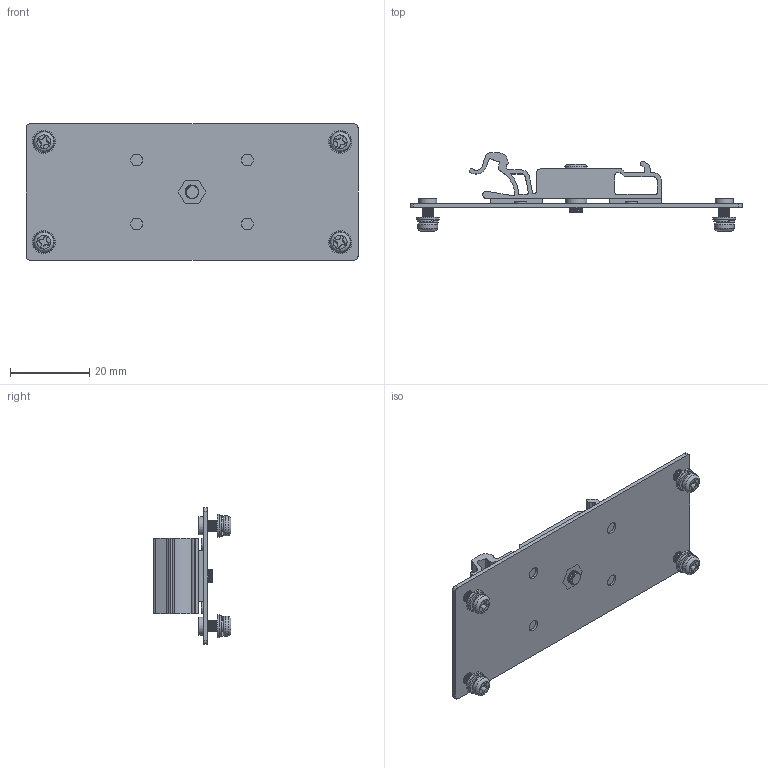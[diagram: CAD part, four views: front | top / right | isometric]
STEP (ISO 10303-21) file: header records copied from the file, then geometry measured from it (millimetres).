
FILE_DESCRIPTION (( 'STEP AP214' ), '1' );
FILE_NAME ('ECL15-S ASM SPEC(DIN Rail clip).STEP', '2012-11-12T18:30:36', ( 'dcook' ), ( '' ), 'SwSTEP 2.0', 'SolidWorks 2013', '' );
FILE_SCHEMA (( 'AUTOMOTIVE_DESIGN' ));
Length unit declared in the file: inch
Products named in the file (9): ECL25(15)nut; ECL15-S ASM SPEC(DIN Rail clip); DIN CLIP PLASTIC; ECL15-S plate; M3x6mm; M3.5x10mm4; M3.5x10mm; M3.5x10mm 1; M3.5x10mm 2
Assembly tree (11 placements, depth 3):
  ECL15-S ASM SPEC(DIN Rail clip)
    ECL25(15)nut
    M3.5x10mm4
      M3.5x10mm 2
      M3.5x10mm 1
      M3.5x10mm
    M3x6mm  x4
    ECL15-S plate
    DIN CLIP PLASTIC
Bounding box: 84 x 19.7 x 34.5 mm (x, y, z)
Volume: 6705.3 mm3; surface area: 12707.7 mm2
Topology: 10 solids, 10 shells, 536 faces, 1475 edges, 999 vertices
Faces by surface type: plane 261, cylinder 163, bspline 84, cone 28
Full cylindrical faces by diameter (mm): 2.5 x4, 2.8 x4, 2.846 x4, 3 x8, 3.4 x16, 4.3 x1, 4.5 x4, 4.6 x1, 5.246 x4, 5.4 x2, 5.8 x4, 7.9 x1
Entity records: 26328 total; most frequent: CARTESIAN_POINT 10186, ORIENTED_EDGE 2210, DIRECTION 1995, EDGE_CURVE 1105, VERTEX_POINT 764, LINE 667, VECTOR 667, AXIS2_PLACEMENT_3D 664
